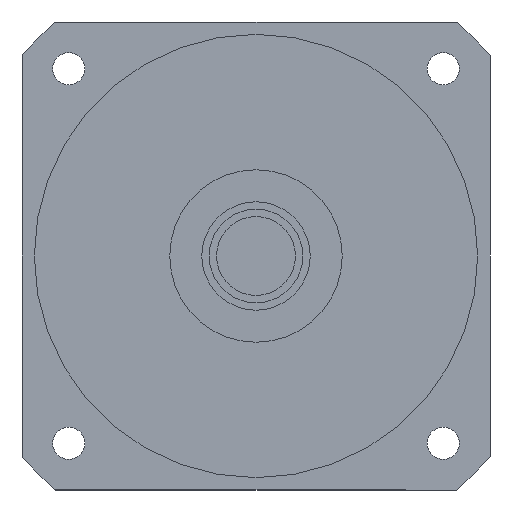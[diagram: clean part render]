
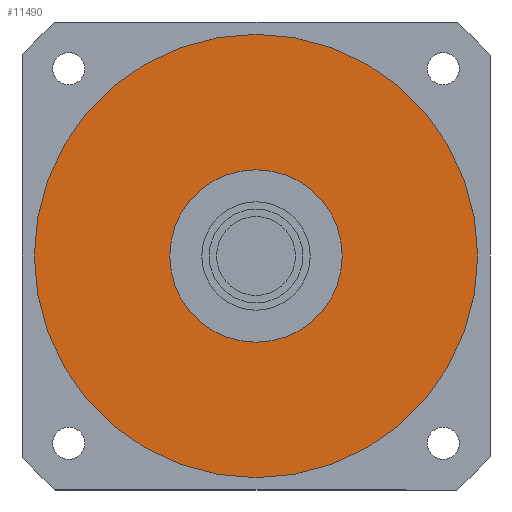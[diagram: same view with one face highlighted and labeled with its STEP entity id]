
A CAD part, left-side view. The second image highlights one B-rep face of the part: STEP entity #11490.
In plain terms, the highlighted planar face has unit normal (-1, 0, 0) as drawn and (0, 0, -1) by its records, which use the part's own axes.
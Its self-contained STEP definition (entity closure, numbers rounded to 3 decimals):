
#10930=CARTESIAN_POINT('',(-35.,0.,-80.2));
#10940=VERTEX_POINT('',#10930);
#10970=CARTESIAN_POINT('',(0.,0.,
-80.2));
#10980=DIRECTION('',(0.,0.,1.));
#10990=DIRECTION('',(0.,1.,0.));
#11000=AXIS2_PLACEMENT_3D('',#10970,#10980,#10990);
#11010=CIRCLE('',#11000,35.);
#11020=CARTESIAN_POINT('',(35.,0.,-80.2));
#11030=VERTEX_POINT('',#11020);
#11040=EDGE_CURVE('',#10940,#11030,#11010,.T.);
#11160=CARTESIAN_POINT('',(0.,0.,
-80.2));
#11170=DIRECTION('',(0.,0.,1.));
#11180=DIRECTION('',(-1.,0.,0.));
#11190=AXIS2_PLACEMENT_3D('',#11160,#11170,#11180);
#11200=PLANE('',#11190);
#11210=ORIENTED_EDGE('',*,*,#11040,.T.);
#11220=CARTESIAN_POINT('',(0.,35.,-80.2));
#11230=VERTEX_POINT('',#11220);
#11240=EDGE_CURVE('',#11230,#10940,#11010,.T.);
#11250=ORIENTED_EDGE('',*,*,#11240,.T.);
#11260=EDGE_CURVE('',#11030,#11230,#11010,.T.);
#11270=ORIENTED_EDGE('',*,*,#11260,.T.);
#11280=EDGE_LOOP('',(#11270,#11250,#11210));
#11290=FACE_BOUND('',#11280,.T.);
#11300=CARTESIAN_POINT('',(0.,0.,
-80.2));
#11310=DIRECTION('',(0.,0.,1.));
#11320=DIRECTION('',(0.,1.,0.));
#11330=AXIS2_PLACEMENT_3D('',#11300,#11310,#11320);
#11340=CIRCLE('',#11330,90.);
#11350=CARTESIAN_POINT('',(0.,90.,-80.2));
#11360=VERTEX_POINT('',#11350);
#11370=CARTESIAN_POINT('',(-90.,0.,-80.2));
#11380=VERTEX_POINT('',#11370);
#11390=EDGE_CURVE('',#11360,#11380,#11340,.T.);
#11400=ORIENTED_EDGE('',*,*,#11390,.F.);
#11410=CARTESIAN_POINT('',(90.,0.,-80.2));
#11420=VERTEX_POINT('',#11410);
#11430=EDGE_CURVE('',#11380,#11420,#11340,.T.);
#11440=ORIENTED_EDGE('',*,*,#11430,.F.);
#11450=EDGE_CURVE('',#11420,#11360,#11340,.T.);
#11460=ORIENTED_EDGE('',*,*,#11450,.F.);
#11470=EDGE_LOOP('',(#11460,#11440,#11400));
#11480=FACE_OUTER_BOUND('',#11470,.T.);
#11490=ADVANCED_FACE('',(#11290,#11480),#11200,.F.);
